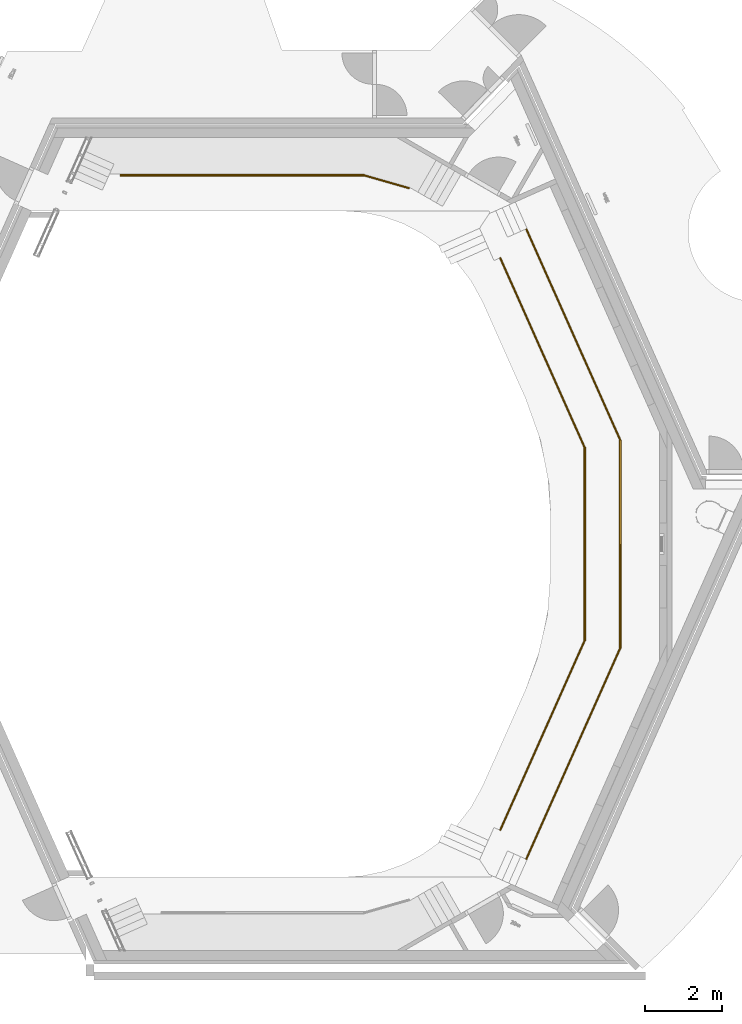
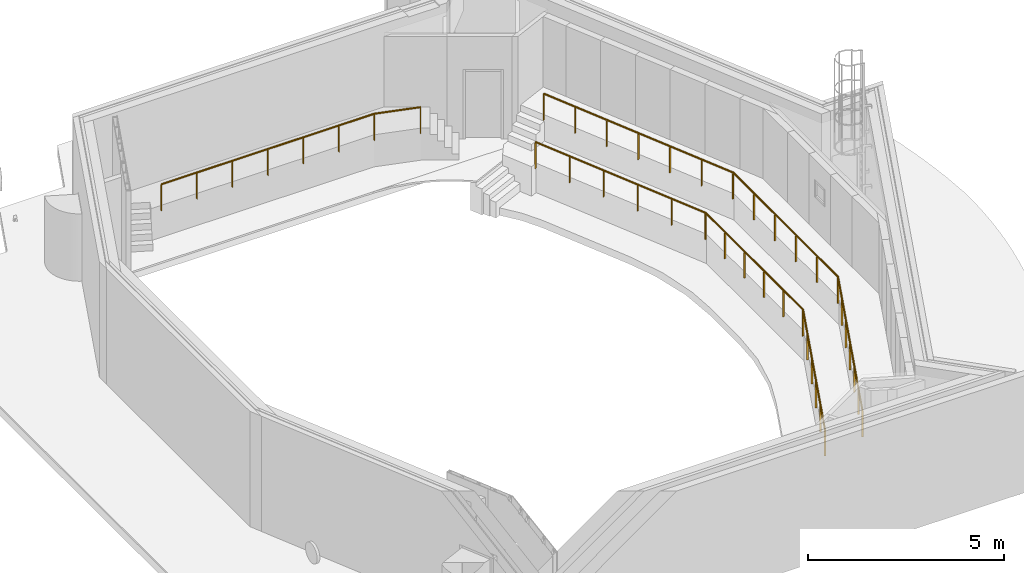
# One storey, part 13 of 16: 8 railings.
"""IFC2X3 building model written with IfcOpenShell, lengths in millimetres."""

import ifcopenshell
import ifcopenshell.guid

model = None  # the IFC model being written
_history = None  # IfcOwnerHistory: only IFC2X3 demands one
_inside = {}  # id of a spatial element -> (the spatial element, [elements in it])
_under = {}  # id of a project, library or spatial element -> (it, [spatial elements below it])
_declared = {}  # id of a project -> (the project, [libraries it declares])
_typed = {}  # id of a type object -> (the type object, [elements of that type])
_made_of = {}  # id of a material, layer set ... -> (it, [elements and type objects made of it])


def new_model(schema):
    """Start an empty IFC model of exactly this schema.

    Asked for "IFC4X3", IfcOpenShell would pick the latest addendum, in which some entities
    have other attributes; the version numbers below select the first issue.
    IFC2X3 requires an IfcOwnerHistory on every rooted entity: one is made here for all.
    """
    global model, _history
    if schema == "IFC4X3":
        model = ifcopenshell.file(schema_version=(4, 3, 0, 0))
    else:
        model = ifcopenshell.file(schema=schema)
    _inside.clear()
    _under.clear()
    _declared.clear()
    _typed.clear()
    _made_of.clear()
    _history = None
    if model.schema == "IFC2X3":
        org = make("IfcOrganization", Name="unknown")
        user = make(
            "IfcPersonAndOrganization",
            ThePerson=make("IfcPerson", FamilyName="unknown"),
            TheOrganization=org,
        )
        app = make(
            "IfcApplication",
            ApplicationDeveloper=org,
            Version="unknown",
            ApplicationFullName="unknown",
            ApplicationIdentifier="unknown",
        )
        _history = make(
            "IfcOwnerHistory",
            OwningUser=user,
            OwningApplication=app,
            ChangeAction="ADDED",
            CreationDate=0,
        )
    return model


def make(cls, **values):
    """One entity of the class cls with the attributes given. An attribute that is None is left unset."""
    return model.create_entity(
        cls, **{name: value for name, value in values.items() if value is not None}
    )


def entity(cls, *values):
    """Any entity or typed value of the class cls, its attributes in the order of the schema. None: left unset."""
    e = model.create_entity(cls)
    for i, value in enumerate(values):
        if value is not None:
            e[i] = value
    return e


def rooted(cls, **values):
    """An entity with a GlobalId (a new one), such as an element, a storey or a relation."""
    return make(cls, GlobalId=ifcopenshell.guid.new(), OwnerHistory=_history, **values)


def si_unit(unit_type, name, prefix=None):
    """IfcSIUnit, for example si_unit("LENGTHUNIT", "METRE", prefix="MILLI")."""
    return make("IfcSIUnit", UnitType=unit_type, Prefix=prefix, Name=name)


def converted_unit(unit_type, name, factor, base, dimensions=None, offset=None):
    """IfcConversionBasedUnit, such as the inch: factor (a typed value) times the base unit."""
    return make(
        "IfcConversionBasedUnit"
        if offset is None
        else "IfcConversionBasedUnitWithOffset",
        ConversionOffset=offset,
        Dimensions=None
        if dimensions is None
        else entity("IfcDimensionalExponents", *dimensions),
        UnitType=unit_type,
        Name=name,
        ConversionFactor=make(
            "IfcMeasureWithUnit", ValueComponent=factor, UnitComponent=base
        ),
    )


def derived_unit(unit_type, elements):
    """IfcDerivedUnit: a product of units, each with its exponent."""
    return make(
        "IfcDerivedUnit",
        Elements=[
            make("IfcDerivedUnitElement", Unit=unit, Exponent=power)
            for unit, power in elements
        ],
        UnitType=unit_type,
    )


def assignment(units):
    """IfcUnitAssignment: the units of a project."""
    return None if units is None else make("IfcUnitAssignment", Units=units)


def point(xyz):
    """IfcCartesianPoint."""
    return None if xyz is None else make("IfcCartesianPoint", Coordinates=xyz)


def direction(xyz):
    """IfcDirection."""
    return None if xyz is None else make("IfcDirection", DirectionRatios=xyz)


def frame(location, z_axis=None, x_axis=None):
    """IfcAxis2Placement3D, a coordinate frame: its origin and axes. An axis left out is left unset."""
    return make(
        "IfcAxis2Placement3D",
        Location=point(location),
        Axis=direction(z_axis),
        RefDirection=direction(x_axis),
    )


def frame_2d(location, x_axis=None):
    """IfcAxis2Placement2D, a coordinate frame in the plane: its origin and x axis."""
    return make(
        "IfcAxis2Placement2D", Location=point(location), RefDirection=direction(x_axis)
    )


def origin():
    """The frame at (0, 0, 0) with its axes left unset."""
    return frame((0.0, 0.0, 0.0))


def origin_2d_with_axis():
    """The frame at (0, 0) in the plane with the x axis (1, 0) written out."""
    return frame_2d((0.0, 0.0), x_axis=(1.0, 0.0))


def place(relative_to, where):
    """IfcLocalPlacement: puts the frame where relative to a parent placement (None: the world)."""
    return make(
        "IfcLocalPlacement", PlacementRelTo=relative_to, RelativePlacement=where
    )


def context(
    kind, dimensions, precision=None, world=None, true_north=None, identifier=None
):
    """IfcGeometricRepresentationContext, for example the 3D "Model" context."""
    return make(
        "IfcGeometricRepresentationContext",
        ContextIdentifier=identifier,
        ContextType=kind,
        CoordinateSpaceDimension=dimensions,
        Precision=precision,
        WorldCoordinateSystem=world,
        TrueNorth=true_north,
    )


def subcontext(parent, identifier, kind, view, scale=None):
    """IfcGeometricRepresentationSubContext, for example "Body" below "Model"."""
    return make(
        "IfcGeometricRepresentationSubContext",
        ContextIdentifier=identifier,
        ContextType=kind,
        ParentContext=parent,
        TargetScale=scale,
        TargetView=view,
    )


def project(units=None, contexts=None):
    """IfcProject with its units and contexts."""
    return rooted(
        "IfcProject",
        Name="project",
        RepresentationContexts=contexts,
        UnitsInContext=assignment(units),
    )


def spatial(cls, under=None, at=None, **own):
    """A site, building, storey or space (cls), placed at a placement, below another one or the project."""
    s = rooted(cls, ObjectPlacement=at, **own)
    if under is not None:
        _under.setdefault(under.id(), (under, []))[1].append(s)
    return s


def profile(cls, at=None, kind="AREA", **sizes):
    """A parametric profile (cls). Its sizes go by their IFC names, for example OverallWidth=200.0."""
    return make(cls, ProfileType=kind, Position=at, **sizes)


def rectangle(**sizes):
    """IfcRectangleProfileDef."""
    return profile("IfcRectangleProfileDef", **sizes)


def circle(**sizes):
    """IfcCircleProfileDef."""
    return profile("IfcCircleProfileDef", **sizes)


def extrude(swept, where, along, depth):
    """IfcExtrudedAreaSolid: the profile swept, set in the frame where, extruded along a direction by depth."""
    return make(
        "IfcExtrudedAreaSolid",
        SweptArea=swept,
        Position=where,
        ExtrudedDirection=direction(along),
        Depth=depth,
    )


def shape(context_of_items, identifier, shape_type, items):
    """IfcShapeRepresentation: the items that make up one representation, for example the "Body"."""
    return make(
        "IfcShapeRepresentation",
        ContextOfItems=context_of_items,
        RepresentationIdentifier=identifier,
        RepresentationType=shape_type,
        Items=items,
    )


def material(Name=None, Category=None):
    """IfcMaterial."""
    return make("IfcMaterial", Name=Name, Category=Category)


def material_list(materials):
    """IfcMaterialList."""
    return make("IfcMaterialList", Materials=materials)


def made_of(thing, what):
    """Note that an element or type object is made of a material, layer set ...; save() writes the relation."""
    if what is not None:
        _made_of.setdefault(what.id(), (what, []))[1].append(thing)
    return thing


def element(
    cls,
    number,
    at=None,
    inside=None,
    cuts=None,
    type_object=None,
    material=None,
    context=None,
    identifier="Body",
    shape_type=None,
    held_by="IfcProductDefinitionShape",
    body=None,
    shapes=None,
    **own,
):
    """One element of the class cls, such as IfcWall. Its Tag is "e" and its number.

    at: its placement. inside: the storey or other place that contains it. cuts: it is an
    opening in that element (IfcRelVoidsElement). A single representation is given by context,
    identifier, shape_type and body (its items); several are given by shapes. held_by: the class
    of the entity that holds the representations. save() writes the other relations.
    """
    e = rooted(cls, Tag="e%d" % number, ObjectPlacement=at, **own)
    if body is not None:
        shapes = [shape(context, identifier, shape_type, body)]
    if shapes is not None:
        e.Representation = make(held_by, Representations=shapes)
    if inside is not None:
        _inside.setdefault(inside.id(), (inside, []))[1].append(e)
    if cuts is not None:
        rooted(
            "IfcRelVoidsElement", RelatingBuildingElement=cuts, RelatedOpeningElement=e
        )
    if type_object is not None:
        _typed.setdefault(type_object.id(), (type_object, []))[1].append(e)
    return made_of(e, material)


def aggregate(whole, parts):
    """IfcRelAggregates: a whole, such as a stair, and the parts it consists of."""
    return rooted("IfcRelAggregates", RelatingObject=whole, RelatedObjects=parts)


def save(model, path):
    """Write the relations noted so far, then the file.

    IfcRelAggregates (storeys below a building ...), IfcRelContainedInSpatialStructure (elements
    in a storey), IfcRelDefinesByType, IfcRelAssociatesMaterial and IfcRelDeclares: one each for
    every whole, place, type object, material and project.
    """
    for whole, parts in _under.values():
        aggregate(whole, parts)
    for where, things in _inside.values():
        rooted(
            "IfcRelContainedInSpatialStructure",
            RelatedElements=things,
            RelatingStructure=where,
        )
    for kind, things in _typed.values():
        rooted("IfcRelDefinesByType", RelatedObjects=things, RelatingType=kind)
    for what, things in _made_of.values():
        rooted("IfcRelAssociatesMaterial", RelatedObjects=things, RelatingMaterial=what)
    for by, libraries in _declared.values():
        rooted("IfcRelDeclares", RelatingContext=by, RelatedDefinitions=libraries)
    model.write(path)


model = new_model("IFC2X3")

# Units and contexts
model_context = context("Model", 3, precision=0.01, world=origin(), true_north=direction((6.123031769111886e-17, 1.0)))
body_context = subcontext(model_context, "Body", "Model", "MODEL_VIEW")
ifc_project = project(units=[si_unit("LENGTHUNIT", "METRE", prefix="MILLI"), si_unit("AREAUNIT", "SQUARE_METRE"), si_unit("VOLUMEUNIT", "CUBIC_METRE"), converted_unit("PLANEANGLEUNIT", "DEGREE", entity("IfcRatioMeasure", 0.017453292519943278), si_unit("PLANEANGLEUNIT", "RADIAN"), dimensions=[0, 0, 0, 0, 0, 0, 0]), si_unit("MASSUNIT", "GRAM", prefix="KILO"), derived_unit("MASSDENSITYUNIT", [(si_unit("MASSUNIT", "GRAM", prefix="KILO"), 1), (si_unit("LENGTHUNIT", "METRE"), -3)]), derived_unit("MOMENTOFINERTIAUNIT", [(si_unit("LENGTHUNIT", "METRE"), 4)]), si_unit("TIMEUNIT", "SECOND"), si_unit("FREQUENCYUNIT", "HERTZ"), si_unit("THERMODYNAMICTEMPERATUREUNIT", "DEGREE_CELSIUS"), derived_unit("THERMALTRANSMITTANCEUNIT", [(si_unit("MASSUNIT", "GRAM", prefix="KILO"), 1), (si_unit("THERMODYNAMICTEMPERATUREUNIT", "KELVIN"), -1), (si_unit("TIMEUNIT", "SECOND"), -3)]), derived_unit("VOLUMETRICFLOWRATEUNIT", [(si_unit("LENGTHUNIT", "METRE"), 3), (si_unit("TIMEUNIT", "SECOND"), -1)]), derived_unit("MASSFLOWRATEUNIT", [(si_unit("MASSUNIT", "GRAM", prefix="KILO"), 1), (si_unit("TIMEUNIT", "SECOND"), -1)]), derived_unit("ROTATIONALFREQUENCYUNIT", [(si_unit("TIMEUNIT", "SECOND"), -1)]), si_unit("ELECTRICCURRENTUNIT", "AMPERE"), si_unit("ELECTRICVOLTAGEUNIT", "VOLT"), si_unit("POWERUNIT", "WATT"), si_unit("FORCEUNIT", "NEWTON", prefix="KILO"), si_unit("ILLUMINANCEUNIT", "LUX"), si_unit("LUMINOUSFLUXUNIT", "LUMEN"), si_unit("LUMINOUSINTENSITYUNIT", "CANDELA"), derived_unit("USERDEFINED", [(si_unit("MASSUNIT", "GRAM", prefix="KILO"), -1), (si_unit("LENGTHUNIT", "METRE"), -2), (si_unit("TIMEUNIT", "SECOND"), 3), (si_unit("LUMINOUSFLUXUNIT", "LUMEN"), 1)]), derived_unit("SOUNDPOWERUNIT", [(si_unit("MASSUNIT", "GRAM", prefix="KILO"), 1), (si_unit("LENGTHUNIT", "METRE"), 2), (si_unit("TIMEUNIT", "SECOND"), -3)]), derived_unit("SOUNDPRESSUREUNIT", [(si_unit("MASSUNIT", "GRAM", prefix="KILO"), 1), (si_unit("LENGTHUNIT", "METRE"), -1), (si_unit("TIMEUNIT", "SECOND"), -2)]), derived_unit("LINEARVELOCITYUNIT", [(si_unit("LENGTHUNIT", "METRE"), 1), (si_unit("TIMEUNIT", "SECOND"), -1)]), si_unit("PRESSUREUNIT", "PASCAL"), derived_unit("USERDEFINED", [(si_unit("LENGTHUNIT", "METRE"), -2), (si_unit("MASSUNIT", "GRAM", prefix="KILO"), 1), (si_unit("TIMEUNIT", "SECOND"), -2)]), derived_unit("LINEARFORCEUNIT", [(si_unit("MASSUNIT", "GRAM", prefix="KILO"), 1), (si_unit("LENGTHUNIT", "METRE"), 1), (si_unit("TIMEUNIT", "SECOND"), -2), (si_unit("LENGTHUNIT", "METRE"), -1)]), derived_unit("PLANARFORCEUNIT", [(si_unit("MASSUNIT", "GRAM", prefix="KILO"), 1), (si_unit("LENGTHUNIT", "METRE"), 1), (si_unit("TIMEUNIT", "SECOND"), -2), (si_unit("LENGTHUNIT", "METRE"), -2)])], contexts=[model_context])

# Site, building, storey
site_placement = place(None, frame((-10000.0, -10000.0, 0.0)))
site = spatial("IfcSite", under=ifc_project, at=site_placement, Name="Default", CompositionType="ELEMENT")
building_placement = place(site_placement, origin())
building = spatial("IfcBuilding", under=site, at=building_placement, CompositionType="ELEMENT")
storey_placement = place(building_placement, frame((0.0, 0.0, 9000.0)))
storey = spatial("IfcBuildingStorey", under=building, at=storey_placement, Name="02 2e verdieping", CompositionType="ELEMENT", Elevation=9000.0)

# Railings
ifc_material_1 = material(Name="Default Metal")
ifc_material_2 = material(Name="Default")
ifc_material_list_1 = material_list([ifc_material_1, ifc_material_1, ifc_material_1, ifc_material_1, ifc_material_1, ifc_material_1, ifc_material_1, ifc_material_2])
railing_1_placement = place(storey_placement, origin())
element("IfcRailing", 1, at=railing_1_placement, inside=storey, material=ifc_material_list_1, Name="Railing:NLRS_34_RAI_buisleuning balkon", ObjectType="Railing:NLRS_34_RAI_buisleuning balkon", PredefinedType="NOTDEFINED", context=body_context, shape_type="SweptSolid", body=[
    extrude(rectangle(XDim=15.00000000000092, YDim=49.9999999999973, at=origin_2d_with_axis()), frame((34995.08875643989, 48177.0, 850.0)), (0.0, 0.0, 1.0), 800.0),
    extrude(rectangle(XDim=15.00000000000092, YDim=49.9999999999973, at=origin_2d_with_axis()), frame((33946.11034957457, 48177.0, 850.0)), (0.0, 0.0, 1.0), 800.0),
    extrude(rectangle(XDim=15.00000000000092, YDim=49.9999999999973, at=origin_2d_with_axis()), frame((32897.13194270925, 48177.0, 850.0)), (0.0, 0.0, 1.0), 800.0),
    extrude(rectangle(XDim=15.00000000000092, YDim=49.9999999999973, at=origin_2d_with_axis()), frame((31848.153535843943, 48177.0, 850.0)), (0.0, 0.0, 1.0), 800.0),
    extrude(rectangle(XDim=15.00000000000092, YDim=49.9999999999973, at=origin_2d_with_axis()), frame((30799.175128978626, 48177.0, 850.0)), (0.0, 0.0, 1.0), 800.0),
    extrude(rectangle(XDim=15.00000000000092, YDim=49.9999999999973, at=origin_2d_with_axis()), frame((36044.0671633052, 48177.0, 850.0)), (0.0, 0.0, 1.0), 800.0),
    extrude(rectangle(XDim=15.00000000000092, YDim=49.9999999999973, at=origin_2d_with_axis()), frame((29750.196722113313, 48177.0, 850.0)), (0.0, 0.0, 1.0), 800.0),
    extrude(circle(Radius=25.0, at=origin_2d_with_axis()), frame((29750.196722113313, 48177.0, 1675.0), z_axis=(1.0, 0.0, 0.0), x_axis=(0.0, -1.0, 0.0)), (0.0, 0.0, 1.0), 6293.870441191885),
])
ifc_material_list_2 = material_list([ifc_material_1, ifc_material_1, ifc_material_2])
railing_2_placement = place(storey_placement, origin())
element("IfcRailing", 2, at=railing_2_placement, inside=storey, material=ifc_material_list_2, Name="Railing:NLRS_34_RAI_buisleuning balkon", ObjectType="Railing:NLRS_34_RAI_buisleuning balkon", PredefinedType="NOTDEFINED", context=body_context, shape_type="SweptSolid", body=[
    extrude(rectangle(XDim=15.000000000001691, YDim=49.999999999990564, at=origin_2d_with_axis()), frame((37214.45776798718, 47840.38840867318, 850.0), z_axis=(0.0, 0.0, 1.0), x_axis=(0.9612616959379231, -0.27563735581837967, 0.0)), (0.0, 0.0, 1.0), 799.9999999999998),
    extrude(rectangle(XDim=15.000000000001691, YDim=49.999999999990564, at=origin_2d_with_axis()), frame((36037.17622940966, 48177.968457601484, 850.0), z_axis=(0.0, 0.0, 1.0), x_axis=(0.9612616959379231, -0.27563735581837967, 0.0)), (0.0, 0.0, 1.0), 799.9999999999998),
    extrude(circle(Radius=25.0, at=origin_2d_with_axis()), frame((36037.17622940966, 48177.968457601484, 1675.0), z_axis=(0.9612616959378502, -0.27563735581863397, 0.0), x_axis=(-0.27563735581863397, -0.9612616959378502, 0.0)), (0.0, 0.0, 1.0), 1224.725320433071),
])
ifc_material_list_3 = material_list([ifc_material_1, ifc_material_1, ifc_material_1, ifc_material_1, ifc_material_1, ifc_material_1, ifc_material_2])
railing_3_placement = place(storey_placement, origin())
element("IfcRailing", 3, at=railing_3_placement, inside=storey, material=ifc_material_list_3, Name="Railing:NLRS_34_RAI_buisleuning balkon", ObjectType="Railing:NLRS_34_RAI_buisleuning balkon", PredefinedType="NOTDEFINED", context=body_context, shape_type="SweptSolid", body=[
    extrude(rectangle(XDim=15.00000000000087, YDim=50.00000000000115, at=origin_2d_with_axis()), frame((41319.18648976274, 42105.64103105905, 30.0), z_axis=(0.0, 0.0, 1.0), x_axis=(0.40673664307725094, -0.913545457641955, 0.0)), (0.0, 0.0, 1.0), 800.0),
    extrude(rectangle(XDim=15.00000000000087, YDim=50.00000000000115, at=origin_2d_with_axis()), frame((40881.21161596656, 43089.34870364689, 30.0), z_axis=(0.0, 0.0, 1.0), x_axis=(0.40673664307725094, -0.913545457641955, 0.0)), (0.0, 0.0, 1.0), 800.0),
    extrude(rectangle(XDim=15.00000000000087, YDim=50.00000000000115, at=origin_2d_with_axis()), frame((40443.23674217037, 44073.05637623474, 30.0), z_axis=(0.0, 0.0, 1.0), x_axis=(0.40673664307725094, -0.913545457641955, 0.0)), (0.0, 0.0, 1.0), 800.0),
    extrude(rectangle(XDim=15.00000000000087, YDim=50.00000000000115, at=origin_2d_with_axis()), frame((40005.26186837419, 45056.76404882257, 30.0), z_axis=(0.0, 0.0, 1.0), x_axis=(0.40673664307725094, -0.913545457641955, 0.0)), (0.0, 0.0, 1.0), 800.0),
    extrude(rectangle(XDim=15.00000000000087, YDim=50.00000000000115, at=origin_2d_with_axis()), frame((41757.16136355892, 41121.9333584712, 30.0), z_axis=(0.0, 0.0, 1.0), x_axis=(0.40673664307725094, -0.913545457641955, 0.0)), (0.0, 0.0, 1.0), 800.0),
    extrude(rectangle(XDim=15.00000000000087, YDim=50.00000000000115, at=origin_2d_with_axis()), frame((39567.28699457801, 46040.471721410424, 30.0), z_axis=(0.0, 0.0, 1.0), x_axis=(0.40673664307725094, -0.913545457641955, 0.0)), (0.0, 0.0, 1.0), 800.0),
    extrude(circle(Radius=25.0, at=origin_2d_with_axis()), frame((39567.28699457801, 46040.471721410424, 855.0), z_axis=(0.4067366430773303, -0.9135454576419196, 0.0), x_axis=(-0.9135454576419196, -0.4067366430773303, 0.0)), (0.0, 0.0, 1.0), 5384.010529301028),
])
ifc_material_list_4 = material_list([ifc_material_1, ifc_material_1, ifc_material_1, ifc_material_1, ifc_material_1, ifc_material_1, ifc_material_2])
railing_4_placement = place(storey_placement, origin())
element("IfcRailing", 4, at=railing_4_placement, inside=storey, material=ifc_material_list_4, Name="Railing:NLRS_34_RAI_buisleuning balkon", ObjectType="Railing:NLRS_34_RAI_buisleuning balkon", PredefinedType="NOTDEFINED", context=body_context, shape_type="SweptSolid", body=[
    extrude(rectangle(XDim=15.00000000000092, YDim=49.9999999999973, at=origin_2d_with_axis()), frame((41755.0, 37142.33893478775, 30.0), z_axis=(0.0, 0.0, 1.0), x_axis=(0.0, -1.0, 0.0)), (0.0, 0.0, 1.0), 800.0),
    extrude(rectangle(XDim=15.00000000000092, YDim=49.9999999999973, at=origin_2d_with_axis()), frame((41755.0, 38139.77964472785, 30.0), z_axis=(0.0, 0.0, 1.0), x_axis=(0.0, -1.0, 0.0)), (0.0, 0.0, 1.0), 800.0),
    extrude(rectangle(XDim=14.99999999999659, YDim=49.9999999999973, at=origin_2d_with_axis()), frame((41755.0, 39137.22035466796, 30.0), z_axis=(0.0, 0.0, 1.0), x_axis=(0.0, -1.0, 0.0)), (0.0, 0.0, 1.0), 800.0),
    extrude(rectangle(XDim=14.99999999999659, YDim=49.9999999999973, at=origin_2d_with_axis()), frame((41755.0, 40134.66106460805, 30.0), z_axis=(0.0, 0.0, 1.0), x_axis=(0.0, -1.0, 0.0)), (0.0, 0.0, 1.0), 800.0),
    extrude(rectangle(XDim=15.00000000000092, YDim=49.9999999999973, at=origin_2d_with_axis()), frame((41755.0, 36144.89822484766, 30.0), z_axis=(0.0, 0.0, 1.0), x_axis=(0.0, -1.0, 0.0)), (0.0, 0.0, 1.0), 800.0),
    extrude(rectangle(XDim=14.99999999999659, YDim=49.9999999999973, at=origin_2d_with_axis()), frame((41755.0, 41132.10177454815, 30.0), z_axis=(0.0, 0.0, 1.0), x_axis=(0.0, -1.0, 0.0)), (0.0, 0.0, 1.0), 800.0),
    extrude(circle(Radius=25.0, at=origin_2d_with_axis()), frame((41755.0, 36144.89822484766, 855.0), z_axis=(0.0, 1.0, 0.0), x_axis=(-1.0, 0.0, 0.0)), (0.0, 0.0, 1.0), 4987.203549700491),
])
ifc_material_list_5 = material_list([ifc_material_1, ifc_material_1, ifc_material_1, ifc_material_1, ifc_material_1, ifc_material_1, ifc_material_2])
railing_5_placement = place(storey_placement, origin())
element("IfcRailing", 5, at=railing_5_placement, inside=storey, material=ifc_material_list_5, Name="Railing:NLRS_34_RAI_buisleuning balkon", ObjectType="Railing:NLRS_34_RAI_buisleuning balkon", PredefinedType="NOTDEFINED", context=body_context, shape_type="SweptSolid", body=[
    extrude(rectangle(XDim=49.99999999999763, YDim=15.00000000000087, at=origin_2d_with_axis()), frame((41319.18648976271, 35171.358968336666, 30.0), z_axis=(0.0, 0.0, 1.0), x_axis=(0.9135454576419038, -0.4067366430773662, 0.0)), (0.0, 0.0, 1.0), 799.9999999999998),
    extrude(rectangle(XDim=49.99999999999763, YDim=15.00000000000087, at=frame_2d((1.7621459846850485e-12, -3.956834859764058e-12), x_axis=(1.0, 0.0))), frame((40881.211615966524, 34187.65129574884, 30.0), z_axis=(0.0, 0.0, 1.0), x_axis=(0.9135454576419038, -0.4067366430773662, 0.0)), (0.0, 0.0, 1.0), 799.9999999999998),
    extrude(rectangle(XDim=49.99999999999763, YDim=15.00000000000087, at=origin_2d_with_axis()), frame((40443.23674217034, 33203.94362316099, 30.0), z_axis=(0.0, 0.0, 1.0), x_axis=(0.9135454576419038, -0.4067366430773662, 0.0)), (0.0, 0.0, 1.0), 799.9999999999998),
    extrude(rectangle(XDim=49.99999999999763, YDim=15.000000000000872, at=frame_2d((-1.7621459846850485e-12, 3.956834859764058e-12), x_axis=(1.0, 0.0))), frame((40005.261868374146, 32220.235950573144, 30.0), z_axis=(0.0, 0.0, 1.0), x_axis=(0.9135454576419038, -0.4067366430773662, 0.0)), (0.0, 0.0, 1.0), 799.9999999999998),
    extrude(rectangle(XDim=49.99999999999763, YDim=15.00000000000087, at=origin_2d_with_axis()), frame((41757.161363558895, 36155.06664092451, 30.0), z_axis=(0.0, 0.0, 1.0), x_axis=(0.9135454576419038, -0.4067366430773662, 0.0)), (0.0, 0.0, 1.0), 799.9999999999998),
    extrude(rectangle(XDim=49.99999999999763, YDim=15.00000000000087, at=origin_2d_with_axis()), frame((39567.28699457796, 31236.528277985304, 30.0), z_axis=(0.0, 0.0, 1.0), x_axis=(0.9135454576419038, -0.4067366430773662, 0.0)), (0.0, 0.0, 1.0), 799.9999999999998),
    extrude(circle(Radius=25.0, at=origin_2d_with_axis()), frame((39567.28699457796, 31236.528277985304, 855.0), z_axis=(0.40673664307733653, 0.9135454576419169, 0.0), x_axis=(-0.9135454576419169, 0.40673664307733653, 0.0)), (0.0, 0.0, 1.0), 5384.010529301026),
])
ifc_material_list_6 = material_list([ifc_material_1, ifc_material_1, ifc_material_1, ifc_material_1, ifc_material_1, ifc_material_1, ifc_material_1, ifc_material_2])
railing_6_placement = place(storey_placement, origin())
element("IfcRailing", 6, at=railing_6_placement, inside=storey, material=ifc_material_list_6, Name="Railing:NLRS_34_RAI_buisleuning balkon", ObjectType="Railing:NLRS_34_RAI_buisleuning balkon", PredefinedType="NOTDEFINED", context=body_context, shape_type="SweptSolid", body=[
    extrude(rectangle(XDim=15.00000000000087, YDim=50.00000000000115, at=origin_2d_with_axis()), frame((42271.18836110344, 42229.31568793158, 850.0), z_axis=(0.0, 0.0, 1.0), x_axis=(0.40673664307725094, -0.913545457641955, 0.0)), (0.0, 0.0, 1.0), 800.0),
    extrude(rectangle(XDim=15.00000000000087, YDim=50.00000000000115, at=origin_2d_with_axis()), frame((41865.21535864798, 43141.145980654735, 850.0), z_axis=(0.0, 0.0, 1.0), x_axis=(0.40673664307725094, -0.913545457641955, 0.0)), (0.0, 0.0, 1.0), 800.0),
    extrude(rectangle(XDim=15.00000000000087, YDim=50.00000000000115, at=origin_2d_with_axis()), frame((41459.242356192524, 44052.97627337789, 850.0), z_axis=(0.0, 0.0, 1.0), x_axis=(0.40673664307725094, -0.913545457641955, 0.0)), (0.0, 0.0, 1.0), 800.0),
    extrude(rectangle(XDim=15.00000000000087, YDim=50.00000000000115, at=origin_2d_with_axis()), frame((41053.26935373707, 44964.80656610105, 850.0), z_axis=(0.0, 0.0, 1.0), x_axis=(0.40673664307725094, -0.913545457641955, 0.0)), (0.0, 0.0, 1.0), 800.0),
    extrude(rectangle(XDim=15.00000000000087, YDim=50.00000000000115, at=origin_2d_with_axis()), frame((40647.29635128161, 45876.6368588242, 850.0), z_axis=(0.0, 0.0, 1.0), x_axis=(0.40673664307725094, -0.913545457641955, 0.0)), (0.0, 0.0, 1.0), 800.0),
    extrude(rectangle(XDim=15.00000000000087, YDim=50.00000000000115, at=origin_2d_with_axis()), frame((42677.161363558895, 41317.48539520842, 850.0), z_axis=(0.0, 0.0, 1.0), x_axis=(0.40673664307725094, -0.913545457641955, 0.0)), (0.0, 0.0, 1.0), 800.0),
    extrude(rectangle(XDim=15.00000000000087, YDim=50.00000000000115, at=origin_2d_with_axis()), frame((40241.32334882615, 46788.46715154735, 850.0), z_axis=(0.0, 0.0, 1.0), x_axis=(0.40673664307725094, -0.913545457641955, 0.0)), (0.0, 0.0, 1.0), 800.0),
    extrude(circle(Radius=25.0, at=origin_2d_with_axis()), frame((42677.161363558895, 41317.48539520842, 1675.0), z_axis=(-0.40673664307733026, 0.9135454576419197, 0.0), x_axis=(-0.9135454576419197, -0.40673664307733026, 0.0)), (0.0, 0.0, 1.0), 5988.735109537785),
])
ifc_material_list_7 = material_list([ifc_material_1, ifc_material_1, ifc_material_1, ifc_material_1, ifc_material_1, ifc_material_1, ifc_material_2])
railing_7_placement = place(storey_placement, origin())
element("IfcRailing", 7, at=railing_7_placement, inside=storey, material=ifc_material_list_7, Name="Railing:NLRS_34_RAI_buisleuning balkon", ObjectType="Railing:NLRS_34_RAI_buisleuning balkon", PredefinedType="NOTDEFINED", context=body_context, shape_type="SweptSolid", body=[
    extrude(rectangle(XDim=14.999999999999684, YDim=50.0000000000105, at=origin_2d_with_axis()), frame((42675.610108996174, 37023.65159240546, 850.0), z_axis=(0.0, 0.0, 1.0), x_axis=(-0.000567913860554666, -0.9999998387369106, 0.0)), (0.0, 0.0, 1.0), 799.9999999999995),
    extrude(rectangle(XDim=14.999999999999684, YDim=50.0000000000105, at=origin_2d_with_axis()), frame((42676.22021396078, 38097.94279885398, 850.0), z_axis=(0.0, 0.0, 1.0), x_axis=(-0.000567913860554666, -0.9999998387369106, 0.0)), (0.0, 0.0, 1.0), 799.9999999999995),
    extrude(rectangle(XDim=15.000000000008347, YDim=50.0000000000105, at=frame_2d((-4.331202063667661e-12, -1.7763568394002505e-15), x_axis=(1.0, 0.0))), frame((42676.830318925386, 39172.234005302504, 850.0), z_axis=(0.0, 0.0, 1.0), x_axis=(-0.000567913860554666, -0.9999998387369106, 0.0)), (0.0, 0.0, 1.0), 799.9999999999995),
    extrude(rectangle(XDim=15.000000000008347, YDim=50.0000000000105, at=frame_2d((-4.331202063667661e-12, -1.7763568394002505e-15), x_axis=(1.0, 0.0))), frame((42677.44042389, 40246.52521175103, 850.0), z_axis=(0.0, 0.0, 1.0), x_axis=(-0.000567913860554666, -0.9999998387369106, 0.0)), (0.0, 0.0, 1.0), 799.9999999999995),
    extrude(rectangle(XDim=14.999999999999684, YDim=50.0000000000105, at=origin_2d_with_axis()), frame((42675.0, 35949.36038595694, 850.0), z_axis=(0.0, 0.0, 1.0), x_axis=(-0.000567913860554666, -0.9999998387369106, 0.0)), (0.0, 0.0, 1.0), 799.9999999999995),
    extrude(rectangle(XDim=15.000000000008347, YDim=50.0000000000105, at=frame_2d((4.331202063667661e-12, 1.7763568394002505e-15), x_axis=(1.0, 0.0))), frame((42678.050528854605, 41320.81641819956, 850.0), z_axis=(0.0, 0.0, 1.0), x_axis=(-0.000567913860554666, -0.9999998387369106, 0.0)), (0.0, 0.0, 1.0), 799.9999999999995),
    extrude(circle(Radius=25.0, at=origin_2d_with_axis()), frame((42675.0, 35949.36038595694, 1675.0), z_axis=(0.0005679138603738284, 0.9999998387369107, 0.0), x_axis=(-0.9999998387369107, 0.0005679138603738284, 0.0)), (0.0, 0.0, 1.0), 5371.456898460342),
])
ifc_material_list_8 = material_list([ifc_material_1, ifc_material_1, ifc_material_1, ifc_material_1, ifc_material_1, ifc_material_1, ifc_material_1, ifc_material_2])
railing_8_placement = place(storey_placement, origin())
element("IfcRailing", 8, at=railing_8_placement, inside=storey, material=ifc_material_list_8, Name="Railing:NLRS_34_RAI_buisleuning balkon", ObjectType="Railing:NLRS_34_RAI_buisleuning balkon", PredefinedType="NOTDEFINED", context=body_context, shape_type="SweptSolid", body=[
    extrude(rectangle(XDim=49.99999999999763, YDim=15.00000000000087, at=origin_2d_with_axis()), frame((42271.18836110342, 35047.68431146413, 850.0), z_axis=(0.0, 0.0, 1.0), x_axis=(0.9135454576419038, -0.4067366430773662, 0.0)), (0.0, 0.0, 1.0), 799.9999999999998),
    extrude(rectangle(XDim=49.99999999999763, YDim=15.00000000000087, at=origin_2d_with_axis()), frame((41865.215358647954, 34135.854018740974, 850.0), z_axis=(0.0, 0.0, 1.0), x_axis=(0.9135454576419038, -0.4067366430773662, 0.0)), (0.0, 0.0, 1.0), 799.9999999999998),
    extrude(rectangle(XDim=49.99999999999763, YDim=15.000000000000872, at=frame_2d((-1.7621459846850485e-12, 3.956834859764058e-12), x_axis=(1.0, 0.0))), frame((41459.242356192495, 33224.02372601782, 850.0), z_axis=(0.0, 0.0, 1.0), x_axis=(0.9135454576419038, -0.4067366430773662, 0.0)), (0.0, 0.0, 1.0), 799.9999999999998),
    extrude(rectangle(XDim=49.99999999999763, YDim=15.00000000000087, at=origin_2d_with_axis()), frame((41053.269353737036, 32312.193433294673, 850.0), z_axis=(0.0, 0.0, 1.0), x_axis=(0.9135454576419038, -0.4067366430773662, 0.0)), (0.0, 0.0, 1.0), 799.9999999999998),
    extrude(rectangle(XDim=49.99999999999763, YDim=15.00000000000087, at=origin_2d_with_axis()), frame((40647.29635128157, 31400.36314057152, 850.0), z_axis=(0.0, 0.0, 1.0), x_axis=(0.9135454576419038, -0.4067366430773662, 0.0)), (0.0, 0.0, 1.0), 799.9999999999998),
    extrude(rectangle(XDim=49.99999999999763, YDim=15.000000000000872, at=frame_2d((-1.7621459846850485e-12, 3.956834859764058e-12), x_axis=(1.0, 0.0))), frame((42677.16136355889, 35959.51460418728, 850.0), z_axis=(0.0, 0.0, 1.0), x_axis=(0.9135454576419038, -0.4067366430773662, 0.0)), (0.0, 0.0, 1.0), 799.9999999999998),
    extrude(rectangle(XDim=49.99999999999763, YDim=15.00000000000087, at=frame_2d((1.7621459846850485e-12, -3.956834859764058e-12), x_axis=(1.0, 0.0))), frame((40241.3233488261, 30488.53284784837, 850.0), z_axis=(0.0, 0.0, 1.0), x_axis=(0.9135454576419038, -0.4067366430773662, 0.0)), (0.0, 0.0, 1.0), 799.9999999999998),
    extrude(circle(Radius=25.0, at=origin_2d_with_axis()), frame((40241.3233488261, 30488.532847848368, 1675.0), z_axis=(0.40673664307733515, 0.9135454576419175, 0.0), x_axis=(-0.9135454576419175, 0.40673664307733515, 0.0)), (0.0, 0.0, 1.0), 5988.735109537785),
])

save(model, "model.ifc")
